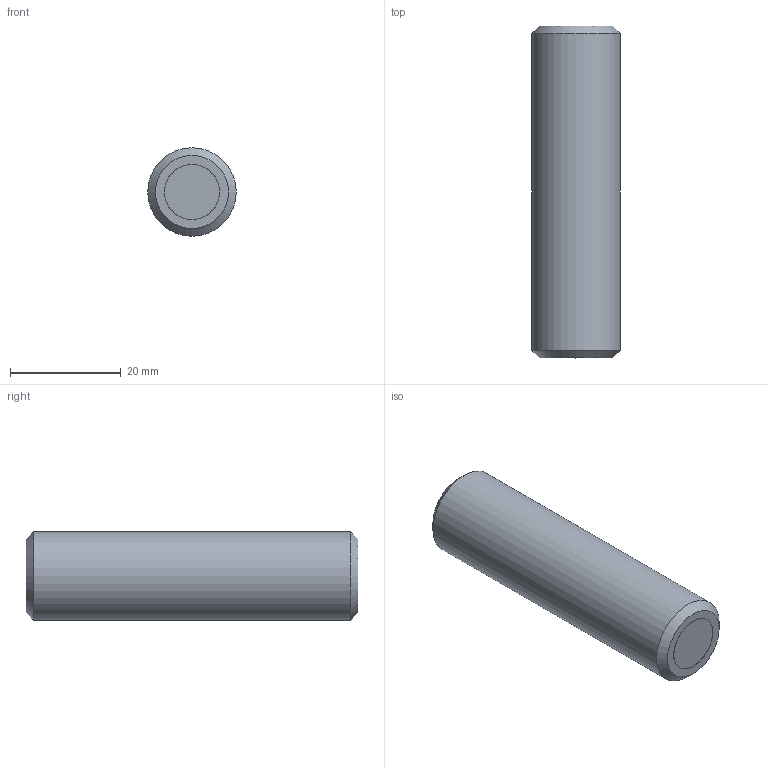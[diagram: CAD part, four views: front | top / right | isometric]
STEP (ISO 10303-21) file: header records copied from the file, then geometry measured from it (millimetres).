
FILE_DESCRIPTION(/* description */ ('STEP AP214'),/* implementation_level */ '2;1');
FILE_NAME(/* name */ 'Grub screw with retaining magnet GN 913.6-M16-60-ND',/* time_stamp */ '2023-10-03T11:28:27+02:00',/* author */ ('License CC BY-ND 4.0'),/* organization */ ('CADENAS'),/* preprocessor_version */ 'ST-DEVELOPER v19.3',/* originating_system */ 'PARTsolutions',/* authorisation */ ' ');
FILE_SCHEMA (('AUTOMOTIVE_DESIGN {1 0 10303 214 3 1 1}'));
Length unit declared in the file: millimetre
Products named in the file (1): Grub screw with retaining magnet GN 913.6-M16-60-ND
Bounding box: 16 x 60 x 16 mm (x, y, z)
Volume: 11508.8 mm3; surface area: 3551.3 mm2
Topology: 1 solids, 1 shells, 22 faces, 45 edges, 27 vertices
Faces by surface type: plane 16, cone 3, cylinder 3
Full cylindrical faces by diameter (mm): 9.96 x1, 10 x1, 16 x1
Entity records: 566 total; most frequent: DIRECTION 98, CARTESIAN_POINT 88, ORIENTED_EDGE 76, EDGE_CURVE 38, AXIS2_PLACEMENT_3D 37, FACE_BOUND 31, EDGE_LOOP 30, VERTEX_POINT 27
